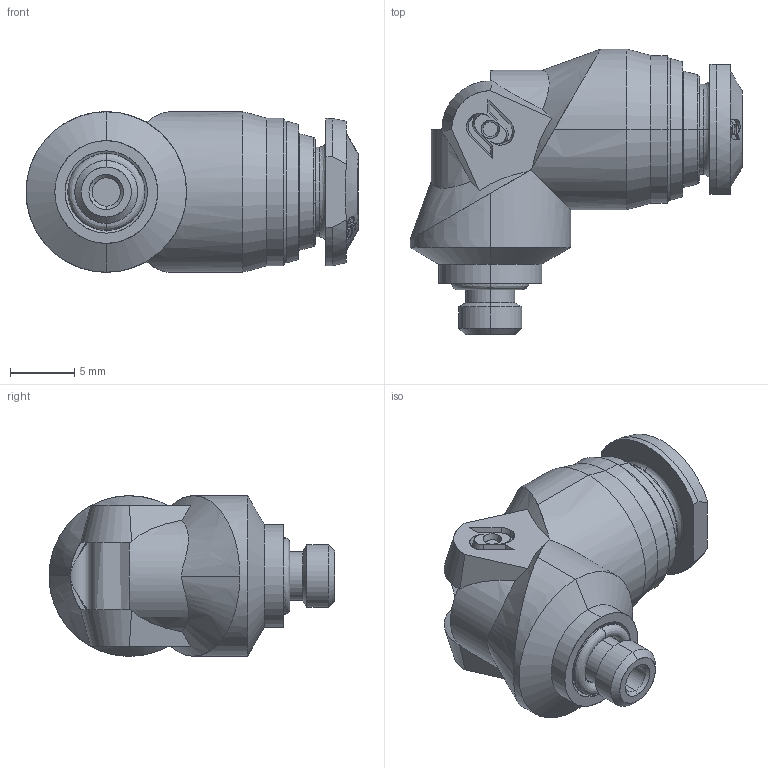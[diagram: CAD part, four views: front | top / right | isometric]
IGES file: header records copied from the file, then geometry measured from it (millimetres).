
Start section: SolidWorks IGES file using analytic representation for surfaces
Global section: file name: K:\Disegni Esecutivi\Serie 50000\ASSIEMI\50100\ASSIEMI_PIENI_50100\5010000010.IGS; native system: SolidWorks 2007; preprocessor: SolidWorks 2007; author: cad02; date: 071011.095958; units: millimetre
Bounding box: 25.85 x 22.25 x 12.5 mm (x, y, z)
Surface area: 1816 mm2 (no closed solid volume)
Topology: 0 solids, 0 shells, 298 faces, 3394 edges, 3391 vertices
Faces by surface type: bspline 194, revolution 104
